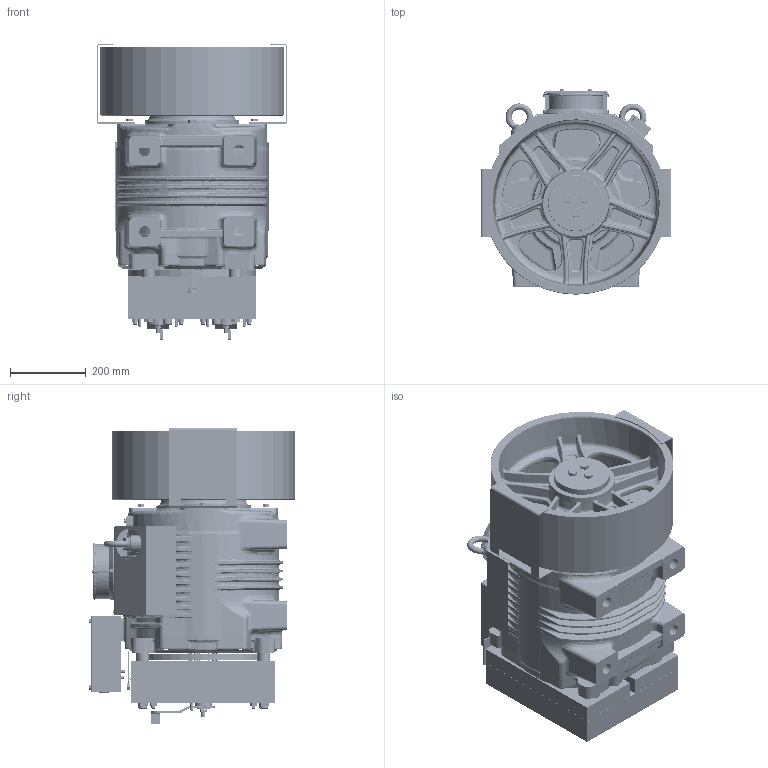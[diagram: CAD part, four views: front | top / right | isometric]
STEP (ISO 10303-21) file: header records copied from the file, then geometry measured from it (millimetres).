
FILE_DESCRIPTION((''),'2;1');
FILE_NAME('00363634_ASM','2020-06-16T',('furlanis'),('Sicor spa'),'CREO PARAMETRIC BY PTC INC, 2017170','CREO PARAMETRIC BY PTC INC, 2017170','');
FILE_SCHEMA(('CONFIG_CONTROL_DESIGN'));
Length unit declared in the file: millimetre
Products named in the file (21): SG62_; _480_182; _480; 00261097; M4_FTT_L; M4_FTT_C; M3_FTT_C; 00261096_ASM; 00008906; 00024268; 00024286_ASM; 00024307; 00259719_M4X60; 00022368; 2080010002; VITI_TC_M4X25_VIT0066; VITI_TC_M3X16_VIT0064; TEM6X12_VIR0184; 00000263; 00268202_ASM; 00363634_ASM
Assembly tree (32 placements, depth 4):
  00363634_ASM
    SG62_
    _480_182
    _480  x2
    00268202_ASM
      00261096_ASM
        00261097
        M4_FTT_L  x2
        M4_FTT_C  x4
        M3_FTT_C  x2
      00024286_ASM
        00008906
        00024268
      00024307
      00259719_M4X60  x2
      00022368
      2080010002
      VITI_TC_M4X25_VIT0066  x2
      VITI_TC_M3X16_VIT0064  x2
      TEM6X12_VIR0184  x4
      00000263
Bounding box: 503 x 543.9 x 783.64 mm (x, y, z)
Volume: 11790237.6 mm3; surface area: 5421105.7 mm2
Topology: 28 solids, 207 shells, 5693 faces, 15498 edges, 9796 vertices
Faces by surface type: plane 1485, cylinder 1370, bspline 1286, torus 854, cone 664, sphere 34
Entity records: 283123 total; most frequent: CARTESIAN_POINT 159642, ORIENTED_EDGE 27000, DIRECTION 22217, EDGE_CURVE 14934, VERTEX_POINT 9473, AXIS2_PLACEMENT_3D 8924, B_SPLINE_CURVE_WITH_KNOTS 5888, EDGE_LOOP 5665
